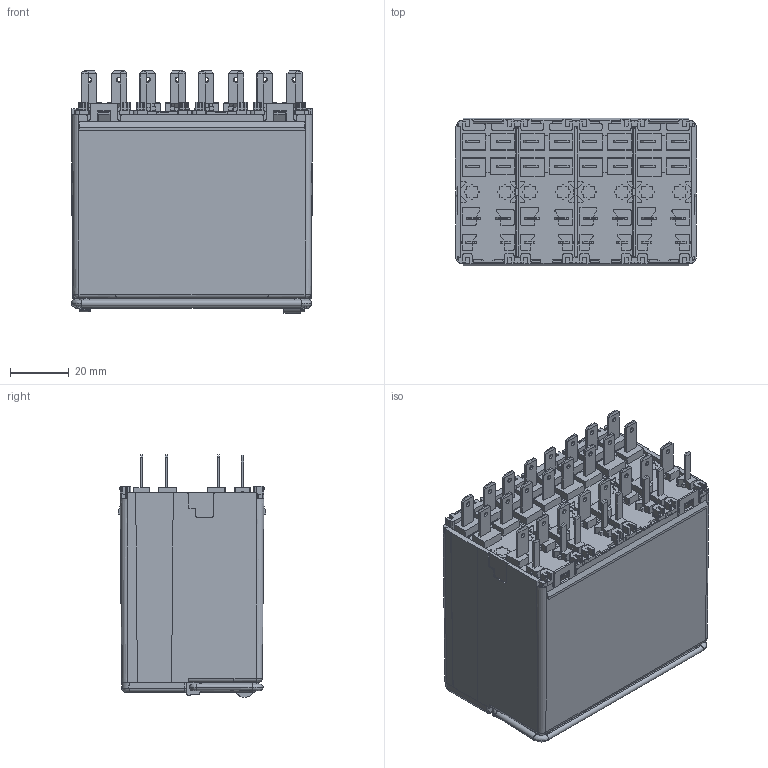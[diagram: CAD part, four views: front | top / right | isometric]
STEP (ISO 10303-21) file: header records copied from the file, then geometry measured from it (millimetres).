
FILE_DESCRIPTION (( 'STEP AP203' ), '1' );
FILE_NAME ('RELE CJ8.STEP', '2014-06-17T06:05:24', ( '' ), ( '' ), 'SwSTEP 2.0', 'SolidWorks 2013', '' );
FILE_SCHEMA (( 'CONFIG_CONTROL_DESIGN' ));
Products named in the file (1): RELE CJ8
Bounding box: 82.5 x 50.38 x 82.79 mm (x, y, z)
Volume: 269169.6 mm3; surface area: 36623 mm2
Topology: 1 solids, 11 shells, 2724 faces, 7671 edges, 4971 vertices
Faces by surface type: plane 1733, cylinder 668, bspline 306, cone 17
Entity records: 95371 total; most frequent: CARTESIAN_POINT 31466, ORIENTED_EDGE 15312, DIRECTION 10023, EDGE_CURVE 7656, VERTEX_POINT 4971, LINE 4959, VECTOR 4959, EDGE_LOOP 2829
